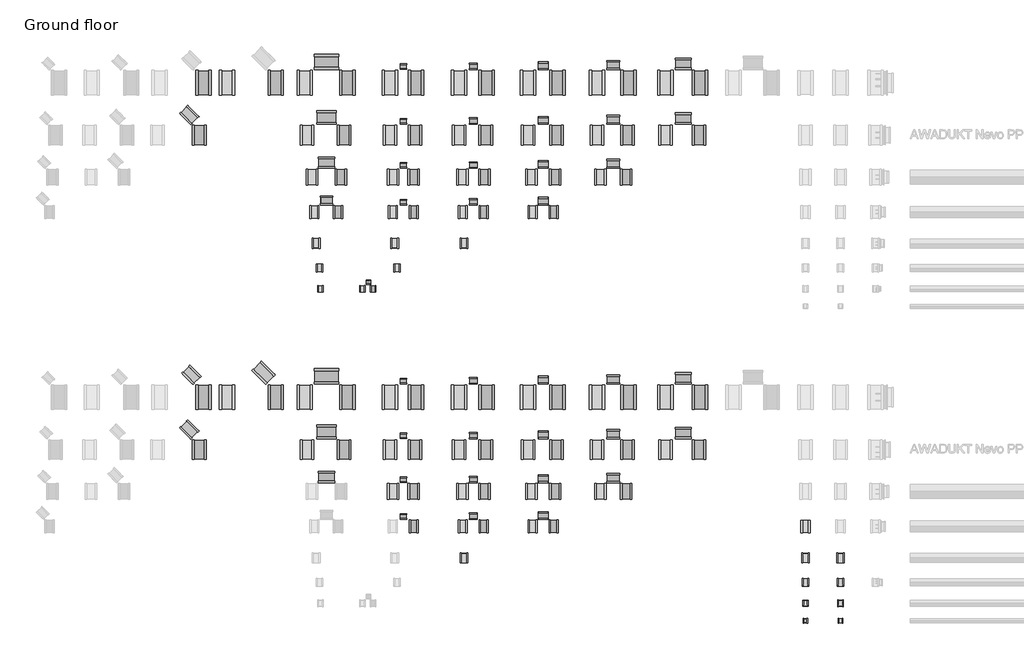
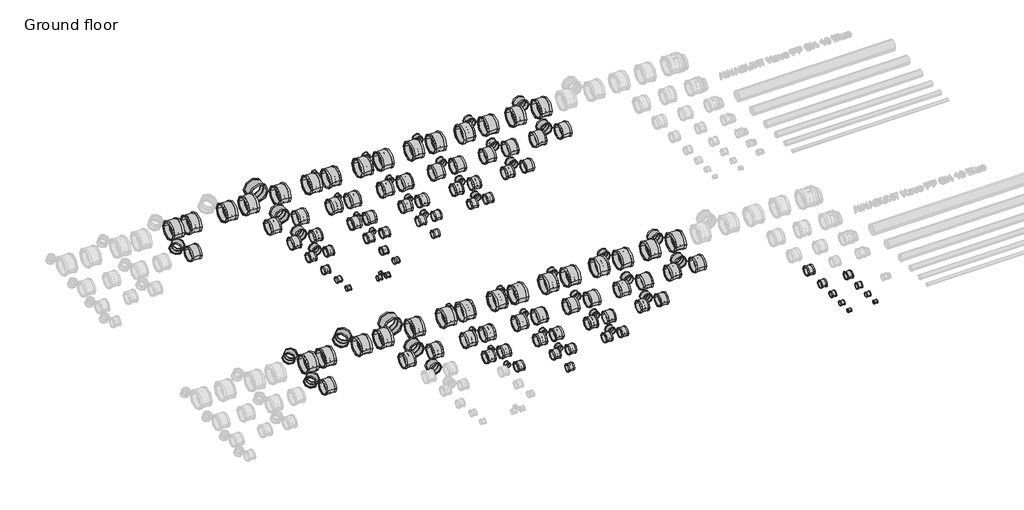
# One storey, part 4 of 10: 151 pipe fittings.
"""IFC4 building model written with IfcOpenShell, lengths in millimetres."""

from ifc_helpers import new_model, si_unit, origin, place, context, project, spatial, transform, mapped, element, save
from components import pipe_fitting_e5a81f0f, pipe_fitting_366f8f33, pipe_fitting_3dc9645f, pipe_fitting_b5a722ff, pipe_fitting_a818c1c7, pipe_fitting_9bc79c39, pipe_fitting_2c23b5e5, pipe_fitting_0ebad727, blue_01f449b1, blue_9a590d53, blue_d79e372c, blue_eca1b971, blue_b5fe305e

model = new_model("IFC4")

# Units and contexts
model_context = context("Model", 3, world=origin())
ifc_project = project(units=[si_unit("LENGTHUNIT", "METRE", prefix="MILLI")], contexts=[model_context])

# Site, building, storey
site = spatial("IfcSite", under=ifc_project)
building = spatial("IfcBuilding", under=site)
storey = spatial("IfcBuildingStorey", under=building, Name="Ground floor", Elevation=0.0)

# Pipe fittings
placement = place(None, origin())
pipe_fitting_shape = pipe_fitting_e5a81f0f(model_context)
element("IfcPipeFitting", 1, ObjectType="AWADUKT PP Union DSM : Orange No PID", at=placement, inside=storey, context=model_context, shape_type="MappedRepresentation", body=[
    mapped(pipe_fitting_shape, transform((36151.0, 11700.0, 0.0), x_axis=(1.0, 0.0, 0.0), y_axis=(0.0, 1.0, 0.0), z_axis=(0.0, 0.0, 1.0))),
])
element("IfcPipeFitting", 2, ObjectType="AWADUKT PP Union DSM : Orange No PID", at=placement, inside=storey, context=model_context, shape_type="MappedRepresentation", body=[
    mapped(pipe_fitting_shape, transform((38394.0, 11700.0, 0.0), x_axis=(1.0, 0.0, 0.0), y_axis=(0.0, 1.0, 0.0), z_axis=(0.0, 0.0, 1.0))),
])
element("IfcPipeFitting", 3, ObjectType="AWADUKT PP Union DSM : Orange No PID", at=placement, inside=storey, context=model_context, shape_type="MappedRepresentation", body=[
    mapped(pipe_fitting_shape, transform((40394.0, 11700.0, 0.0), x_axis=(1.0, 0.0, 0.0), y_axis=(0.0, 1.0, 0.0), z_axis=(0.0, 0.0, 1.0))),
])
element("IfcPipeFitting", 4, ObjectType="AWADUKT PP Union DSM : Orange No PID", at=placement, inside=storey, context=model_context, shape_type="MappedRepresentation", body=[
    mapped(pipe_fitting_shape, transform((42394.0, 11700.0, 0.0), x_axis=(1.0, 0.0, 0.0), y_axis=(0.0, 1.0, 0.0), z_axis=(0.0, 0.0, 1.0))),
])
element("IfcPipeFitting", 5, ObjectType="AWADUKT PP Union DSM : Orange No PID", at=placement, inside=storey, context=model_context, shape_type="MappedRepresentation", body=[
    mapped(pipe_fitting_shape, transform((36832.0, 11700.0, 0.0), x_axis=(-1.0, 0.0, 0.0), y_axis=(0.0, -1.0, 0.0), z_axis=(0.0, 0.0, 1.0))),
])
element("IfcPipeFitting", 6, ObjectType="AWADUKT PP Union DSM : Orange No PID", at=placement, inside=storey, context=model_context, shape_type="MappedRepresentation", body=[
    mapped(pipe_fitting_shape, transform((36500.0, 12025.0, 0.0), x_axis=(0.0, 1.0, 0.0), y_axis=(-1.0, 0.0, 0.0), z_axis=(0.0, 0.0, 1.0))),
])
element("IfcPipeFitting", 7, ObjectType="AWADUKT PP Union DSM : Orange No PID", at=placement, inside=storey, context=model_context, shape_type="MappedRepresentation", body=[
    mapped(pipe_fitting_shape, transform((39000.0, 11700.0, 0.0), x_axis=(-1.0, 0.0, 0.0), y_axis=(0.0, -1.0, 0.0), z_axis=(0.0, 0.0, 1.0))),
])
element("IfcPipeFitting", 8, ObjectType="AWADUKT PP Union DSM : Orange No PID", at=placement, inside=storey, context=model_context, shape_type="MappedRepresentation", body=[
    mapped(pipe_fitting_shape, transform((41000.0, 11700.0, 0.0), x_axis=(-1.0, 0.0, 0.0), y_axis=(0.0, -1.0, 0.0), z_axis=(0.0, 0.0, 1.0))),
])
element("IfcPipeFitting", 9, ObjectType="AWADUKT PP Union DSM : Orange No PID", at=placement, inside=storey, context=model_context, shape_type="MappedRepresentation", body=[
    mapped(pipe_fitting_shape, transform((43000.0, 11700.0, 0.0), x_axis=(-1.0, 0.0, 0.0), y_axis=(0.0, -1.0, 0.0), z_axis=(0.0, 0.0, 1.0))),
])
element("IfcPipeFitting", 10, ObjectType="AWADUKT PP Union DSM : Orange No PID", at=placement, inside=storey, context=model_context, shape_type="MappedRepresentation", body=[
    mapped(pipe_fitting_shape, transform((44700.0, 13078.0, 0.0), x_axis=(0.0, 1.0, 0.0), y_axis=(-1.0, 0.0, 0.0), z_axis=(0.0, 0.0, 1.0))),
])
element("IfcPipeFitting", 11, ObjectType="AWADUKT PP Union DSM : Orange No PID", at=placement, inside=storey, context=model_context, shape_type="MappedRepresentation", body=[
    mapped(pipe_fitting_shape, transform((44700.0, 14338.0, 0.0), x_axis=(0.0, 1.0, 0.0), y_axis=(-1.0, 0.0, 0.0), z_axis=(0.0, 0.0, 1.0))),
])
element("IfcPipeFitting", 12, ObjectType="AWADUKT PP Union DSM : Orange No PID", at=placement, inside=storey, context=model_context, shape_type="MappedRepresentation", body=[
    mapped(pipe_fitting_shape, transform((44700.0, 15903.0, 0.0), x_axis=(0.0, 1.0, 0.0), y_axis=(-1.0, 0.0, 0.0), z_axis=(0.0, 0.0, 1.0))),
])
pipe_fitting_2_shape = pipe_fitting_366f8f33(model_context)
element("IfcPipeFitting", 13, ObjectType="AWADUKT PP Union DSM : Blue No PID", at=placement, inside=storey, context=model_context, shape_type="MappedRepresentation", body=[
    mapped(pipe_fitting_2_shape, transform((32987.0, 6400.0, 0.0), x_axis=(-1.0, 0.0, 0.0), y_axis=(0.0, -1.0, 0.0), z_axis=(0.0, 0.0, 1.0))),
])
element("IfcPipeFitting", 14, ObjectType="AWADUKT PP Union DSM : Blue No PID", at=placement, inside=storey, context=model_context, shape_type="MappedRepresentation", body=[
    mapped(pipe_fitting_2_shape, transform((33650.0, 6400.0, 0.0), x_axis=(1.0, 0.0, 0.0), y_axis=(0.0, 1.0, 0.0), z_axis=(0.0, 0.0, 1.0))),
])
element("IfcPipeFitting", 15, ObjectType="AWADUKT PP Union DSM : Blue No PID", at=placement, inside=storey, context=model_context, shape_type="MappedRepresentation", body=[
    mapped(pipe_fitting_2_shape, transform((35054.0, 6400.0, 0.0), x_axis=(-1.0, 0.0, 0.0), y_axis=(0.0, -1.0, 0.0), z_axis=(0.0, 0.0, 1.0))),
])
element("IfcPipeFitting", 16, ObjectType="AWADUKT PP Union DSM : Blue No PID", at=placement, inside=storey, context=model_context, shape_type="MappedRepresentation", body=[
    mapped(pipe_fitting_2_shape, transform((35874.0, 6400.0, 0.0), x_axis=(1.0, 0.0, 0.0), y_axis=(0.0, 1.0, 0.0), z_axis=(0.0, 0.0, 1.0))),
])
element("IfcPipeFitting", 17, ObjectType="AWADUKT PP Union DSM : Blue No PID", at=placement, inside=storey, context=model_context, shape_type="MappedRepresentation", body=[
    mapped(pipe_fitting_2_shape, transform((38309.0, 6400.0, 0.0), x_axis=(1.0, 0.0, 0.0), y_axis=(0.0, 1.0, 0.0), z_axis=(0.0, 0.0, 1.0))),
])
element("IfcPipeFitting", 18, ObjectType="AWADUKT PP Union DSM : Blue No PID", at=placement, inside=storey, context=model_context, shape_type="MappedRepresentation", body=[
    mapped(pipe_fitting_2_shape, transform((40289.0, 6400.0, 0.0), x_axis=(1.0, 0.0, 0.0), y_axis=(0.0, 1.0, 0.0), z_axis=(0.0, 0.0, 1.0))),
])
element("IfcPipeFitting", 19, ObjectType="AWADUKT PP Union DSM : Blue No PID", at=placement, inside=storey, context=model_context, shape_type="MappedRepresentation", body=[
    mapped(pipe_fitting_2_shape, transform((42264.0, 6400.0, 0.0), x_axis=(1.0, 0.0, 0.0), y_axis=(0.0, 1.0, 0.0), z_axis=(0.0, 0.0, 1.0))),
])
element("IfcPipeFitting", 20, ObjectType="AWADUKT PP Union DSM : Blue No PID", at=placement, inside=storey, context=model_context, shape_type="MappedRepresentation", body=[
    mapped(pipe_fitting_2_shape, transform((44232.0, 6400.0, 0.0), x_axis=(1.0, 0.0, 0.0), y_axis=(0.0, 1.0, 0.0), z_axis=(0.0, 0.0, 1.0))),
])
element("IfcPipeFitting", 21, ObjectType="AWADUKT PP Union DSM : Blue No PID", at=placement, inside=storey, context=model_context, shape_type="MappedRepresentation", body=[
    mapped(pipe_fitting_2_shape, transform((46189.0, 6400.0, 0.0), x_axis=(1.0, 0.0, 0.0), y_axis=(0.0, 1.0, 0.0), z_axis=(0.0, 0.0, 1.0))),
])
element("IfcPipeFitting", 22, ObjectType="AWADUKT PP Union DSM : Blue No PID", at=placement, inside=storey, context=model_context, shape_type="MappedRepresentation", body=[
    mapped(pipe_fitting_2_shape, transform((37101.0, 6400.0, 0.0), x_axis=(-1.0, 0.0, 0.0), y_axis=(0.0, -1.0, 0.0), z_axis=(0.0, 0.0, 1.0))),
])
element("IfcPipeFitting", 23, ObjectType="AWADUKT PP Union DSM : Blue No PID", at=placement, inside=storey, context=model_context, shape_type="MappedRepresentation", body=[
    mapped(pipe_fitting_2_shape, transform((36500.0, 6990.0, 0.0), x_axis=(0.0, 1.0, 0.0), y_axis=(-1.0, 0.0, 0.0), z_axis=(0.0, 0.0, 1.0))),
])
element("IfcPipeFitting", 24, ObjectType="AWADUKT PP Union DSM : Blue No PID", at=placement, inside=storey, context=model_context, shape_type="MappedRepresentation", body=[
    mapped(pipe_fitting_2_shape, transform((39066.0, 6400.0, 0.0), x_axis=(-1.0, 0.0, 0.0), y_axis=(0.0, -1.0, 0.0), z_axis=(0.0, 0.0, 1.0))),
])
element("IfcPipeFitting", 25, ObjectType="AWADUKT PP Union DSM : Blue No PID", at=placement, inside=storey, context=model_context, shape_type="MappedRepresentation", body=[
    mapped(pipe_fitting_2_shape, transform((41086.0, 6400.0, 0.0), x_axis=(-1.0, 0.0, 0.0), y_axis=(0.0, -1.0, 0.0), z_axis=(0.0, 0.0, 1.0))),
])
element("IfcPipeFitting", 26, ObjectType="AWADUKT PP Union DSM : Blue No PID", at=placement, inside=storey, context=model_context, shape_type="MappedRepresentation", body=[
    mapped(pipe_fitting_2_shape, transform((43111.0, 6400.0, 0.0), x_axis=(-1.0, 0.0, 0.0), y_axis=(0.0, -1.0, 0.0), z_axis=(0.0, 0.0, 1.0))),
])
element("IfcPipeFitting", 27, ObjectType="AWADUKT PP Union DSM : Blue No PID", at=placement, inside=storey, context=model_context, shape_type="MappedRepresentation", body=[
    mapped(pipe_fitting_2_shape, transform((45144.0, 6400.0, 0.0), x_axis=(-1.0, 0.0, 0.0), y_axis=(0.0, -1.0, 0.0), z_axis=(0.0, 0.0, 1.0))),
])
element("IfcPipeFitting", 28, ObjectType="AWADUKT PP Union DSM : Blue No PID", at=placement, inside=storey, context=model_context, shape_type="MappedRepresentation", body=[
    mapped(pipe_fitting_2_shape, transform((47186.0, 6400.0, 0.0), x_axis=(-1.0, 0.0, 0.0), y_axis=(0.0, -1.0, 0.0), z_axis=(0.0, 0.0, 1.0))),
])
pipe_fitting_3_shape = pipe_fitting_3dc9645f(model_context)
element("IfcPipeFitting", 29, ObjectType="AWADUKT PP Union DSM : Blue No PID", at=placement, inside=storey, context=model_context, shape_type="MappedRepresentation", body=[
    mapped(pipe_fitting_3_shape, transform((38700.0, 2982.0, 0.0), x_axis=(0.0, 1.0, 0.0), y_axis=(-1.0, 0.0, 0.0), z_axis=(0.0, 0.0, 1.0))),
])
element("IfcPipeFitting", 30, ObjectType="AWADUKT PP Union DSM : Blue No PID", at=placement, inside=storey, context=model_context, shape_type="MappedRepresentation", body=[
    mapped(pipe_fitting_3_shape, transform((38700.0, 4035.0, 0.0), x_axis=(0.0, 1.0, 0.0), y_axis=(-1.0, 0.0, 0.0), z_axis=(0.0, 0.0, 1.0))),
])
element("IfcPipeFitting", 31, ObjectType="AWADUKT PP Union DSM : Blue No PID", at=placement, inside=storey, context=model_context, shape_type="MappedRepresentation", body=[
    mapped(pipe_fitting_3_shape, transform((38700.0, 5295.0, 0.0), x_axis=(0.0, 1.0, 0.0), y_axis=(-1.0, 0.0, 0.0), z_axis=(0.0, 0.0, 1.0))),
])
element("IfcPipeFitting", 32, ObjectType="AWADUKT PP Union DSM : Blue No PID", at=placement, inside=storey, context=model_context, shape_type="MappedRepresentation", body=[
    mapped(pipe_fitting_3_shape, transform((38700.0, 6860.0, 0.0), x_axis=(0.0, 1.0, 0.0), y_axis=(-1.0, 0.0, 0.0), z_axis=(0.0, 0.0, 1.0))),
])
pipe_fitting_4_shape = pipe_fitting_b5a722ff(model_context)
element("IfcPipeFitting", 33, ObjectType="AWADUKT PP Union DSM : Blue No PID", at=placement, inside=storey, context=model_context, shape_type="MappedRepresentation", body=[
    mapped(pipe_fitting_4_shape, transform((40700.0, 2988.0, 0.0), x_axis=(0.0, 1.0, 0.0), y_axis=(-1.0, 0.0, 0.0), z_axis=(0.0, 0.0, 1.0))),
])
element("IfcPipeFitting", 34, ObjectType="AWADUKT PP Union DSM : Blue No PID", at=placement, inside=storey, context=model_context, shape_type="MappedRepresentation", body=[
    mapped(pipe_fitting_4_shape, transform((40700.0, 4040.0, 0.0), x_axis=(0.0, 1.0, 0.0), y_axis=(-1.0, 0.0, 0.0), z_axis=(0.0, 0.0, 1.0))),
])
element("IfcPipeFitting", 35, ObjectType="AWADUKT PP Union DSM : Blue No PID", at=placement, inside=storey, context=model_context, shape_type="MappedRepresentation", body=[
    mapped(pipe_fitting_4_shape, transform((40700.0, 5300.0, 0.0), x_axis=(0.0, 1.0, 0.0), y_axis=(-1.0, 0.0, 0.0), z_axis=(0.0, 0.0, 1.0))),
])
element("IfcPipeFitting", 36, ObjectType="AWADUKT PP Union DSM : Blue No PID", at=placement, inside=storey, context=model_context, shape_type="MappedRepresentation", body=[
    mapped(pipe_fitting_4_shape, transform((40700.0, 6865.0, 0.0), x_axis=(0.0, 1.0, 0.0), y_axis=(-1.0, 0.0, 0.0), z_axis=(0.0, 0.0, 1.0))),
])
pipe_fitting_5_shape = pipe_fitting_a818c1c7(model_context)
element("IfcPipeFitting", 37, ObjectType="AWADUKT PP Union DSM : Blue No PID", at=placement, inside=storey, context=model_context, shape_type="MappedRepresentation", body=[
    mapped(pipe_fitting_5_shape, transform((40429.0, 1800.0, 0.0), x_axis=(1.0, 0.0, 0.0), y_axis=(0.0, 1.0, 0.0), z_axis=(0.0, 0.0, 1.0))),
])
element("IfcPipeFitting", 38, ObjectType="AWADUKT PP Union DSM : Blue No PID", at=placement, inside=storey, context=model_context, shape_type="MappedRepresentation", body=[
    mapped(pipe_fitting_5_shape, transform((42700.0, 3007.0, 0.0), x_axis=(0.0, 1.0, 0.0), y_axis=(-1.0, 0.0, 0.0), z_axis=(0.0, 0.0, 1.0))),
])
element("IfcPipeFitting", 39, ObjectType="AWADUKT PP Union DSM : Blue No PID", at=placement, inside=storey, context=model_context, shape_type="MappedRepresentation", body=[
    mapped(pipe_fitting_5_shape, transform((42700.0, 4060.0, 0.0), x_axis=(0.0, 1.0, 0.0), y_axis=(-1.0, 0.0, 0.0), z_axis=(0.0, 0.0, 1.0))),
])
element("IfcPipeFitting", 40, ObjectType="AWADUKT PP Union DSM : Blue No PID", at=placement, inside=storey, context=model_context, shape_type="MappedRepresentation", body=[
    mapped(pipe_fitting_5_shape, transform((42700.0, 5320.0, 0.0), x_axis=(0.0, 1.0, 0.0), y_axis=(-1.0, 0.0, 0.0), z_axis=(0.0, 0.0, 1.0))),
])
element("IfcPipeFitting", 41, ObjectType="AWADUKT PP Union DSM : Blue No PID", at=placement, inside=storey, context=model_context, shape_type="MappedRepresentation", body=[
    mapped(pipe_fitting_5_shape, transform((42700.0, 6885.0, 0.0), x_axis=(0.0, 1.0, 0.0), y_axis=(-1.0, 0.0, 0.0), z_axis=(0.0, 0.0, 1.0))),
])
element("IfcPipeFitting", 42, ObjectType="AWADUKT PP Union DSM : Blue No PID", at=placement, inside=storey, context=model_context, shape_type="MappedRepresentation", body=[
    mapped(pipe_fitting_shape, transform((40394.0, 2700.0, 0.0), x_axis=(1.0, 0.0, 0.0), y_axis=(0.0, 1.0, 0.0), z_axis=(0.0, 0.0, 1.0))),
])
element("IfcPipeFitting", 43, ObjectType="AWADUKT PP Union DSM : Blue No PID", at=placement, inside=storey, context=model_context, shape_type="MappedRepresentation", body=[
    mapped(pipe_fitting_shape, transform((42394.0, 2700.0, 0.0), x_axis=(1.0, 0.0, 0.0), y_axis=(0.0, 1.0, 0.0), z_axis=(0.0, 0.0, 1.0))),
])
element("IfcPipeFitting", 44, ObjectType="AWADUKT PP Union DSM : Blue No PID", at=placement, inside=storey, context=model_context, shape_type="MappedRepresentation", body=[
    mapped(pipe_fitting_shape, transform((39000.0, 2700.0, 0.0), x_axis=(-1.0, 0.0, 0.0), y_axis=(0.0, -1.0, 0.0), z_axis=(0.0, 0.0, 1.0))),
])
element("IfcPipeFitting", 45, ObjectType="AWADUKT PP Union DSM : Blue No PID", at=placement, inside=storey, context=model_context, shape_type="MappedRepresentation", body=[
    mapped(pipe_fitting_shape, transform((41000.0, 2700.0, 0.0), x_axis=(-1.0, 0.0, 0.0), y_axis=(0.0, -1.0, 0.0), z_axis=(0.0, 0.0, 1.0))),
])
element("IfcPipeFitting", 46, ObjectType="AWADUKT PP Union DSM : Blue No PID", at=placement, inside=storey, context=model_context, shape_type="MappedRepresentation", body=[
    mapped(pipe_fitting_shape, transform((43000.0, 2700.0, 0.0), x_axis=(-1.0, 0.0, 0.0), y_axis=(0.0, -1.0, 0.0), z_axis=(0.0, 0.0, 1.0))),
])
element("IfcPipeFitting", 47, ObjectType="AWADUKT PP Union DSM : Blue No PID", at=placement, inside=storey, context=model_context, shape_type="MappedRepresentation", body=[
    mapped(pipe_fitting_shape, transform((44700.0, 4078.0, 0.0), x_axis=(0.0, 1.0, 0.0), y_axis=(-1.0, 0.0, 0.0), z_axis=(0.0, 0.0, 1.0))),
])
element("IfcPipeFitting", 48, ObjectType="AWADUKT PP Union DSM : Blue No PID", at=placement, inside=storey, context=model_context, shape_type="MappedRepresentation", body=[
    mapped(pipe_fitting_shape, transform((44700.0, 5338.0, 0.0), x_axis=(0.0, 1.0, 0.0), y_axis=(-1.0, 0.0, 0.0), z_axis=(0.0, 0.0, 1.0))),
])
element("IfcPipeFitting", 49, ObjectType="AWADUKT PP Union DSM : Blue No PID", at=placement, inside=storey, context=model_context, shape_type="MappedRepresentation", body=[
    mapped(pipe_fitting_shape, transform((44700.0, 6903.0, 0.0), x_axis=(0.0, 1.0, 0.0), y_axis=(-1.0, 0.0, 0.0), z_axis=(0.0, 0.0, 1.0))),
])
pipe_fitting_6_shape = pipe_fitting_9bc79c39(model_context)
element("IfcPipeFitting", 50, ObjectType="AWADUKT PP Union DSM : Blue No PID", at=placement, inside=storey, context=model_context, shape_type="MappedRepresentation", body=[
    mapped(pipe_fitting_6_shape, transform((32572.7564928, 5472.7564928, 0.0), x_axis=(0.7071067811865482, 0.7071067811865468, 0.0), y_axis=(-0.7071067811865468, 0.7071067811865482, 0.0), z_axis=(0.0, 0.0, 1.0))),
])
element("IfcPipeFitting", 51, ObjectType="AWADUKT PP Union DSM : Blue No PID", at=placement, inside=storey, context=model_context, shape_type="MappedRepresentation", body=[
    mapped(pipe_fitting_6_shape, transform((32636.3961031, 7036.3961031, 0.0), x_axis=(0.7071067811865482, 0.7071067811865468, 0.0), y_axis=(-0.7071067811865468, 0.7071067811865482, 0.0), z_axis=(0.0, 0.0, 1.0))),
])
element("IfcPipeFitting", 52, ObjectType="AWADUKT PP Union DSM : Blue No PID", at=placement, inside=storey, context=model_context, shape_type="MappedRepresentation", body=[
    mapped(pipe_fitting_6_shape, transform((38401.0, 3700.0, 0.0), x_axis=(1.0, 0.0, 0.0), y_axis=(0.0, 1.0, 0.0), z_axis=(0.0, 0.0, 1.0))),
])
element("IfcPipeFitting", 53, ObjectType="AWADUKT PP Union DSM : Blue No PID", at=placement, inside=storey, context=model_context, shape_type="MappedRepresentation", body=[
    mapped(pipe_fitting_6_shape, transform((40381.0, 3700.0, 0.0), x_axis=(1.0, 0.0, 0.0), y_axis=(0.0, 1.0, 0.0), z_axis=(0.0, 0.0, 1.0))),
])
element("IfcPipeFitting", 54, ObjectType="AWADUKT PP Union DSM : Blue No PID", at=placement, inside=storey, context=model_context, shape_type="MappedRepresentation", body=[
    mapped(pipe_fitting_6_shape, transform((42356.0, 3700.0, 0.0), x_axis=(1.0, 0.0, 0.0), y_axis=(0.0, 1.0, 0.0), z_axis=(0.0, 0.0, 1.0))),
])
element("IfcPipeFitting", 55, ObjectType="AWADUKT PP Union DSM : Blue No PID", at=placement, inside=storey, context=model_context, shape_type="MappedRepresentation", body=[
    mapped(pipe_fitting_6_shape, transform((44330.0, 3700.0, 0.0), x_axis=(1.0, 0.0, 0.0), y_axis=(0.0, 1.0, 0.0), z_axis=(0.0, 0.0, 1.0))),
])
element("IfcPipeFitting", 56, ObjectType="AWADUKT PP Union DSM : Blue No PID", at=placement, inside=storey, context=model_context, shape_type="MappedRepresentation", body=[
    mapped(pipe_fitting_6_shape, transform((36500.0, 4110.0, 0.0), x_axis=(0.0, 1.0, 0.0), y_axis=(-1.0, 0.0, 0.0), z_axis=(0.0, 0.0, 1.0))),
])
element("IfcPipeFitting", 57, ObjectType="AWADUKT PP Union DSM : Blue No PID", at=placement, inside=storey, context=model_context, shape_type="MappedRepresentation", body=[
    mapped(pipe_fitting_6_shape, transform((38999.0, 3700.0, 0.0), x_axis=(-1.0, 0.0, 0.0), y_axis=(0.0, -1.0, 0.0), z_axis=(0.0, 0.0, 1.0))),
])
element("IfcPipeFitting", 58, ObjectType="AWADUKT PP Union DSM : Blue No PID", at=placement, inside=storey, context=model_context, shape_type="MappedRepresentation", body=[
    mapped(pipe_fitting_6_shape, transform((41019.0, 3700.0, 0.0), x_axis=(-1.0, 0.0, 0.0), y_axis=(0.0, -1.0, 0.0), z_axis=(0.0, 0.0, 1.0))),
])
element("IfcPipeFitting", 59, ObjectType="AWADUKT PP Union DSM : Blue No PID", at=placement, inside=storey, context=model_context, shape_type="MappedRepresentation", body=[
    mapped(pipe_fitting_6_shape, transform((43044.0, 3700.0, 0.0), x_axis=(-1.0, 0.0, 0.0), y_axis=(0.0, -1.0, 0.0), z_axis=(0.0, 0.0, 1.0))),
])
element("IfcPipeFitting", 60, ObjectType="AWADUKT PP Union DSM : Blue No PID", at=placement, inside=storey, context=model_context, shape_type="MappedRepresentation", body=[
    mapped(pipe_fitting_6_shape, transform((45076.0, 3700.0, 0.0), x_axis=(-1.0, 0.0, 0.0), y_axis=(0.0, -1.0, 0.0), z_axis=(0.0, 0.0, 1.0))),
])
element("IfcPipeFitting", 61, ObjectType="AWADUKT PP Union DSM : Blue No PID", at=placement, inside=storey, context=model_context, shape_type="MappedRepresentation", body=[
    mapped(pipe_fitting_6_shape, transform((46700.0, 5370.0, 0.0), x_axis=(0.0, 1.0, 0.0), y_axis=(-1.0, 0.0, 0.0), z_axis=(0.0, 0.0, 1.0))),
])
element("IfcPipeFitting", 62, ObjectType="AWADUKT PP Union DSM : Blue No PID", at=placement, inside=storey, context=model_context, shape_type="MappedRepresentation", body=[
    mapped(pipe_fitting_6_shape, transform((46700.0, 6935.0, 0.0), x_axis=(0.0, 1.0, 0.0), y_axis=(-1.0, 0.0, 0.0), z_axis=(0.0, 0.0, 1.0))),
])
pipe_fitting_7_shape = pipe_fitting_2c23b5e5(model_context)
element("IfcPipeFitting", 63, ObjectType="AWADUKT PP Union DSM : Blue No PID", at=placement, inside=storey, context=model_context, shape_type="MappedRepresentation", body=[
    mapped(pipe_fitting_7_shape, transform((32866.0, 4900.0, 0.0), x_axis=(-1.0, 0.0, 0.0), y_axis=(0.0, -1.0, 0.0), z_axis=(0.0, 0.0, 1.0))),
])
element("IfcPipeFitting", 64, ObjectType="AWADUKT PP Union DSM : Blue No PID", at=placement, inside=storey, context=model_context, shape_type="MappedRepresentation", body=[
    mapped(pipe_fitting_7_shape, transform((34696.5001795, 7096.5001795, 0.0), x_axis=(0.7071067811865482, 0.7071067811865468, 0.0), y_axis=(-0.7071067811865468, 0.7071067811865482, 0.0), z_axis=(0.0, 0.0, 1.0))),
])
element("IfcPipeFitting", 65, ObjectType="AWADUKT PP Union DSM : Blue No PID", at=placement, inside=storey, context=model_context, shape_type="MappedRepresentation", body=[
    mapped(pipe_fitting_7_shape, transform((35939.0, 4900.0, 0.0), x_axis=(1.0, 0.0, 0.0), y_axis=(0.0, 1.0, 0.0), z_axis=(0.0, 0.0, 1.0))),
])
element("IfcPipeFitting", 66, ObjectType="AWADUKT PP Union DSM : Blue No PID", at=placement, inside=storey, context=model_context, shape_type="MappedRepresentation", body=[
    mapped(pipe_fitting_7_shape, transform((38309.0, 4900.0, 0.0), x_axis=(1.0, 0.0, 0.0), y_axis=(0.0, 1.0, 0.0), z_axis=(0.0, 0.0, 1.0))),
])
element("IfcPipeFitting", 67, ObjectType="AWADUKT PP Union DSM : Blue No PID", at=placement, inside=storey, context=model_context, shape_type="MappedRepresentation", body=[
    mapped(pipe_fitting_7_shape, transform((40289.0, 4900.0, 0.0), x_axis=(1.0, 0.0, 0.0), y_axis=(0.0, 1.0, 0.0), z_axis=(0.0, 0.0, 1.0))),
])
element("IfcPipeFitting", 68, ObjectType="AWADUKT PP Union DSM : Blue No PID", at=placement, inside=storey, context=model_context, shape_type="MappedRepresentation", body=[
    mapped(pipe_fitting_7_shape, transform((42264.0, 4900.0, 0.0), x_axis=(1.0, 0.0, 0.0), y_axis=(0.0, 1.0, 0.0), z_axis=(0.0, 0.0, 1.0))),
])
element("IfcPipeFitting", 69, ObjectType="AWADUKT PP Union DSM : Blue No PID", at=placement, inside=storey, context=model_context, shape_type="MappedRepresentation", body=[
    mapped(pipe_fitting_7_shape, transform((44232.0, 4900.0, 0.0), x_axis=(1.0, 0.0, 0.0), y_axis=(0.0, 1.0, 0.0), z_axis=(0.0, 0.0, 1.0))),
])
element("IfcPipeFitting", 70, ObjectType="AWADUKT PP Union DSM : Blue No PID", at=placement, inside=storey, context=model_context, shape_type="MappedRepresentation", body=[
    mapped(pipe_fitting_7_shape, transform((46189.0, 4900.0, 0.0), x_axis=(1.0, 0.0, 0.0), y_axis=(0.0, 1.0, 0.0), z_axis=(0.0, 0.0, 1.0))),
])
element("IfcPipeFitting", 71, ObjectType="AWADUKT PP Union DSM : Blue No PID", at=placement, inside=storey, context=model_context, shape_type="MappedRepresentation", body=[
    mapped(pipe_fitting_7_shape, transform((37010.0, 4900.0, 0.0), x_axis=(-1.0, 0.0, 0.0), y_axis=(0.0, -1.0, 0.0), z_axis=(0.0, 0.0, 1.0))),
])
element("IfcPipeFitting", 72, ObjectType="AWADUKT PP Union DSM : Blue No PID", at=placement, inside=storey, context=model_context, shape_type="MappedRepresentation", body=[
    mapped(pipe_fitting_7_shape, transform((36500.0, 5399.0, 0.0), x_axis=(0.0, 1.0, 0.0), y_axis=(-1.0, 0.0, 0.0), z_axis=(0.0, 0.0, 1.0))),
])
element("IfcPipeFitting", 73, ObjectType="AWADUKT PP Union DSM : Blue No PID", at=placement, inside=storey, context=model_context, shape_type="MappedRepresentation", body=[
    mapped(pipe_fitting_7_shape, transform((39040.0, 4900.0, 0.0), x_axis=(-1.0, 0.0, 0.0), y_axis=(0.0, -1.0, 0.0), z_axis=(0.0, 0.0, 1.0))),
])
element("IfcPipeFitting", 74, ObjectType="AWADUKT PP Union DSM : Blue No PID", at=placement, inside=storey, context=model_context, shape_type="MappedRepresentation", body=[
    mapped(pipe_fitting_7_shape, transform((41060.0, 4900.0, 0.0), x_axis=(-1.0, 0.0, 0.0), y_axis=(0.0, -1.0, 0.0), z_axis=(0.0, 0.0, 1.0))),
])
element("IfcPipeFitting", 75, ObjectType="AWADUKT PP Union DSM : Blue No PID", at=placement, inside=storey, context=model_context, shape_type="MappedRepresentation", body=[
    mapped(pipe_fitting_7_shape, transform((43085.0, 4900.0, 0.0), x_axis=(-1.0, 0.0, 0.0), y_axis=(0.0, -1.0, 0.0), z_axis=(0.0, 0.0, 1.0))),
])
element("IfcPipeFitting", 76, ObjectType="AWADUKT PP Union DSM : Blue No PID", at=placement, inside=storey, context=model_context, shape_type="MappedRepresentation", body=[
    mapped(pipe_fitting_7_shape, transform((45118.0, 4900.0, 0.0), x_axis=(-1.0, 0.0, 0.0), y_axis=(0.0, -1.0, 0.0), z_axis=(0.0, 0.0, 1.0))),
])
element("IfcPipeFitting", 77, ObjectType="AWADUKT PP Union DSM : Blue No PID", at=placement, inside=storey, context=model_context, shape_type="MappedRepresentation", body=[
    mapped(pipe_fitting_7_shape, transform((47160.0, 4900.0, 0.0), x_axis=(-1.0, 0.0, 0.0), y_axis=(0.0, -1.0, 0.0), z_axis=(0.0, 0.0, 1.0))),
])
pipe_fitting_8_shape = pipe_fitting_0ebad727(model_context)
element("IfcPipeFitting", 78, ObjectType="AWADUKT PP Union DSM : Orange No PID", at=placement, inside=storey, context=model_context, shape_type="MappedRepresentation", body=[
    mapped(pipe_fitting_8_shape, transform((37700.0, 9690.0, 0.0), x_axis=(0.0, 1.0, 0.0), y_axis=(-1.0, 0.0, 0.0), z_axis=(0.0, 0.0, 1.0))),
])
element("IfcPipeFitting", 79, ObjectType="AWADUKT PP Union DSM : Orange No PID", at=placement, inside=storey, context=model_context, shape_type="MappedRepresentation", body=[
    mapped(pipe_fitting_3_shape, transform((36326.0, 9500.0, 0.0), x_axis=(1.0, 0.0, 0.0), y_axis=(0.0, 1.0, 0.0), z_axis=(0.0, 0.0, 1.0))),
])
element("IfcPipeFitting", 80, ObjectType="AWADUKT PP Union DSM : Orange No PID", at=placement, inside=storey, context=model_context, shape_type="MappedRepresentation", body=[
    mapped(pipe_fitting_3_shape, transform((37524.0, 9500.0, 0.0), x_axis=(1.0, 0.0, 0.0), y_axis=(0.0, 1.0, 0.0), z_axis=(0.0, 0.0, 1.0))),
])
element("IfcPipeFitting", 81, ObjectType="AWADUKT PP Union DSM : Orange No PID", at=placement, inside=storey, context=model_context, shape_type="MappedRepresentation", body=[
    mapped(pipe_fitting_3_shape, transform((38700.0, 11982.0, 0.0), x_axis=(0.0, 1.0, 0.0), y_axis=(-1.0, 0.0, 0.0), z_axis=(0.0, 0.0, 1.0))),
])
element("IfcPipeFitting", 82, ObjectType="AWADUKT PP Union DSM : Orange No PID", at=placement, inside=storey, context=model_context, shape_type="MappedRepresentation", body=[
    mapped(pipe_fitting_3_shape, transform((38700.0, 13035.0, 0.0), x_axis=(0.0, 1.0, 0.0), y_axis=(-1.0, 0.0, 0.0), z_axis=(0.0, 0.0, 1.0))),
])
element("IfcPipeFitting", 83, ObjectType="AWADUKT PP Union DSM : Orange No PID", at=placement, inside=storey, context=model_context, shape_type="MappedRepresentation", body=[
    mapped(pipe_fitting_3_shape, transform((38700.0, 14295.0, 0.0), x_axis=(0.0, 1.0, 0.0), y_axis=(-1.0, 0.0, 0.0), z_axis=(0.0, 0.0, 1.0))),
])
element("IfcPipeFitting", 84, ObjectType="AWADUKT PP Union DSM : Orange No PID", at=placement, inside=storey, context=model_context, shape_type="MappedRepresentation", body=[
    mapped(pipe_fitting_3_shape, transform((38700.0, 15860.0, 0.0), x_axis=(0.0, 1.0, 0.0), y_axis=(-1.0, 0.0, 0.0), z_axis=(0.0, 0.0, 1.0))),
])
element("IfcPipeFitting", 85, ObjectType="AWADUKT PP Union DSM : Orange No PID", at=placement, inside=storey, context=model_context, shape_type="MappedRepresentation", body=[
    mapped(pipe_fitting_3_shape, transform((37839.0, 9500.0, 0.0), x_axis=(-1.0, 0.0, 0.0), y_axis=(0.0, -1.0, 0.0), z_axis=(0.0, 0.0, 1.0))),
])
element("IfcPipeFitting", 86, ObjectType="AWADUKT PP Union DSM : Orange No PID", at=placement, inside=storey, context=model_context, shape_type="MappedRepresentation", body=[
    mapped(pipe_fitting_4_shape, transform((36294.1, 10100.0, 0.0), x_axis=(1.0, 0.0, 0.0), y_axis=(0.0, 1.0, 0.0), z_axis=(0.0, 0.0, 1.0))),
])
element("IfcPipeFitting", 87, ObjectType="AWADUKT PP Union DSM : Orange No PID", at=placement, inside=storey, context=model_context, shape_type="MappedRepresentation", body=[
    mapped(pipe_fitting_4_shape, transform((38516.0, 10100.0, 0.0), x_axis=(1.0, 0.0, 0.0), y_axis=(0.0, 1.0, 0.0), z_axis=(0.0, 0.0, 1.0))),
])
element("IfcPipeFitting", 88, ObjectType="AWADUKT PP Union DSM : Orange No PID", at=placement, inside=storey, context=model_context, shape_type="MappedRepresentation", body=[
    mapped(pipe_fitting_4_shape, transform((40700.0, 11988.0, 0.0), x_axis=(0.0, 1.0, 0.0), y_axis=(-1.0, 0.0, 0.0), z_axis=(0.0, 0.0, 1.0))),
])
element("IfcPipeFitting", 89, ObjectType="AWADUKT PP Union DSM : Orange No PID", at=placement, inside=storey, context=model_context, shape_type="MappedRepresentation", body=[
    mapped(pipe_fitting_4_shape, transform((40700.0, 13040.0, 0.0), x_axis=(0.0, 1.0, 0.0), y_axis=(-1.0, 0.0, 0.0), z_axis=(0.0, 0.0, 1.0))),
])
element("IfcPipeFitting", 90, ObjectType="AWADUKT PP Union DSM : Orange No PID", at=placement, inside=storey, context=model_context, shape_type="MappedRepresentation", body=[
    mapped(pipe_fitting_4_shape, transform((40700.0, 14300.0, 0.0), x_axis=(0.0, 1.0, 0.0), y_axis=(-1.0, 0.0, 0.0), z_axis=(0.0, 0.0, 1.0))),
])
element("IfcPipeFitting", 91, ObjectType="AWADUKT PP Union DSM : Orange No PID", at=placement, inside=storey, context=model_context, shape_type="MappedRepresentation", body=[
    mapped(pipe_fitting_4_shape, transform((40700.0, 15865.0, 0.0), x_axis=(0.0, 1.0, 0.0), y_axis=(-1.0, 0.0, 0.0), z_axis=(0.0, 0.0, 1.0))),
])
element("IfcPipeFitting", 92, ObjectType="AWADUKT PP Union DSM : Orange No PID", at=placement, inside=storey, context=model_context, shape_type="MappedRepresentation", body=[
    mapped(pipe_fitting_5_shape, transform((36204.0, 10800.0, 0.0), x_axis=(1.0, 0.0, 0.0), y_axis=(0.0, 1.0, 0.0), z_axis=(0.0, 0.0, 1.0))),
])
element("IfcPipeFitting", 93, ObjectType="AWADUKT PP Union DSM : Orange No PID", at=placement, inside=storey, context=model_context, shape_type="MappedRepresentation", body=[
    mapped(pipe_fitting_5_shape, transform((38449.0, 10800.0, 0.0), x_axis=(1.0, 0.0, 0.0), y_axis=(0.0, 1.0, 0.0), z_axis=(0.0, 0.0, 1.0))),
])
element("IfcPipeFitting", 94, ObjectType="AWADUKT PP Union DSM : Orange No PID", at=placement, inside=storey, context=model_context, shape_type="MappedRepresentation", body=[
    mapped(pipe_fitting_5_shape, transform((40429.0, 10800.0, 0.0), x_axis=(1.0, 0.0, 0.0), y_axis=(0.0, 1.0, 0.0), z_axis=(0.0, 0.0, 1.0))),
])
element("IfcPipeFitting", 95, ObjectType="AWADUKT PP Union DSM : Orange No PID", at=placement, inside=storey, context=model_context, shape_type="MappedRepresentation", body=[
    mapped(pipe_fitting_5_shape, transform((42700.0, 12007.0, 0.0), x_axis=(0.0, 1.0, 0.0), y_axis=(-1.0, 0.0, 0.0), z_axis=(0.0, 0.0, 1.0))),
])
element("IfcPipeFitting", 96, ObjectType="AWADUKT PP Union DSM : Orange No PID", at=placement, inside=storey, context=model_context, shape_type="MappedRepresentation", body=[
    mapped(pipe_fitting_5_shape, transform((42700.0, 13060.0, 0.0), x_axis=(0.0, 1.0, 0.0), y_axis=(-1.0, 0.0, 0.0), z_axis=(0.0, 0.0, 1.0))),
])
element("IfcPipeFitting", 97, ObjectType="AWADUKT PP Union DSM : Orange No PID", at=placement, inside=storey, context=model_context, shape_type="MappedRepresentation", body=[
    mapped(pipe_fitting_5_shape, transform((42700.0, 14320.0, 0.0), x_axis=(0.0, 1.0, 0.0), y_axis=(-1.0, 0.0, 0.0), z_axis=(0.0, 0.0, 1.0))),
])
element("IfcPipeFitting", 98, ObjectType="AWADUKT PP Union DSM : Orange No PID", at=placement, inside=storey, context=model_context, shape_type="MappedRepresentation", body=[
    mapped(pipe_fitting_5_shape, transform((42700.0, 15885.0, 0.0), x_axis=(0.0, 1.0, 0.0), y_axis=(-1.0, 0.0, 0.0), z_axis=(0.0, 0.0, 1.0))),
])
element("IfcPipeFitting", 99, ObjectType="AWADUKT PP Union DSM : Orange No PID", at=placement, inside=storey, context=model_context, shape_type="MappedRepresentation", body=[
    mapped(pipe_fitting_6_shape, transform((32572.7564928, 14472.7564928, 0.0), x_axis=(0.7071067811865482, 0.7071067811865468, 0.0), y_axis=(-0.7071067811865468, 0.7071067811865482, 0.0), z_axis=(0.0, 0.0, 1.0))),
])
element("IfcPipeFitting", 100, ObjectType="AWADUKT PP Union DSM : Orange No PID", at=placement, inside=storey, context=model_context, shape_type="MappedRepresentation", body=[
    mapped(pipe_fitting_6_shape, transform((36081.0, 12700.0, 0.0), x_axis=(1.0, 0.0, 0.0), y_axis=(0.0, 1.0, 0.0), z_axis=(0.0, 0.0, 1.0))),
])
element("IfcPipeFitting", 101, ObjectType="AWADUKT PP Union DSM : Orange No PID", at=placement, inside=storey, context=model_context, shape_type="MappedRepresentation", body=[
    mapped(pipe_fitting_6_shape, transform((38401.0, 12700.0, 0.0), x_axis=(1.0, 0.0, 0.0), y_axis=(0.0, 1.0, 0.0), z_axis=(0.0, 0.0, 1.0))),
])
element("IfcPipeFitting", 102, ObjectType="AWADUKT PP Union DSM : Orange No PID", at=placement, inside=storey, context=model_context, shape_type="MappedRepresentation", body=[
    mapped(pipe_fitting_6_shape, transform((40381.0, 12700.0, 0.0), x_axis=(1.0, 0.0, 0.0), y_axis=(0.0, 1.0, 0.0), z_axis=(0.0, 0.0, 1.0))),
])
element("IfcPipeFitting", 103, ObjectType="AWADUKT PP Union DSM : Orange No PID", at=placement, inside=storey, context=model_context, shape_type="MappedRepresentation", body=[
    mapped(pipe_fitting_6_shape, transform((42356.0, 12700.0, 0.0), x_axis=(1.0, 0.0, 0.0), y_axis=(0.0, 1.0, 0.0), z_axis=(0.0, 0.0, 1.0))),
])
element("IfcPipeFitting", 104, ObjectType="AWADUKT PP Union DSM : Orange No PID", at=placement, inside=storey, context=model_context, shape_type="MappedRepresentation", body=[
    mapped(pipe_fitting_6_shape, transform((44330.0, 12700.0, 0.0), x_axis=(1.0, 0.0, 0.0), y_axis=(0.0, 1.0, 0.0), z_axis=(0.0, 0.0, 1.0))),
])
element("IfcPipeFitting", 105, ObjectType="AWADUKT PP Union DSM : Orange No PID", at=placement, inside=storey, context=model_context, shape_type="MappedRepresentation", body=[
    mapped(pipe_fitting_6_shape, transform((36919.0, 12700.0, 0.0), x_axis=(-1.0, 0.0, 0.0), y_axis=(0.0, -1.0, 0.0), z_axis=(0.0, 0.0, 1.0))),
])
element("IfcPipeFitting", 106, ObjectType="AWADUKT PP Union DSM : Orange No PID", at=placement, inside=storey, context=model_context, shape_type="MappedRepresentation", body=[
    mapped(pipe_fitting_6_shape, transform((36500.0, 13110.0, 0.0), x_axis=(0.0, 1.0, 0.0), y_axis=(-1.0, 0.0, 0.0), z_axis=(0.0, 0.0, 1.0))),
])
element("IfcPipeFitting", 107, ObjectType="AWADUKT PP Union DSM : Orange No PID", at=placement, inside=storey, context=model_context, shape_type="MappedRepresentation", body=[
    mapped(pipe_fitting_6_shape, transform((38999.0, 12700.0, 0.0), x_axis=(-1.0, 0.0, 0.0), y_axis=(0.0, -1.0, 0.0), z_axis=(0.0, 0.0, 1.0))),
])
element("IfcPipeFitting", 108, ObjectType="AWADUKT PP Union DSM : Orange No PID", at=placement, inside=storey, context=model_context, shape_type="MappedRepresentation", body=[
    mapped(pipe_fitting_6_shape, transform((41019.0, 12700.0, 0.0), x_axis=(-1.0, 0.0, 0.0), y_axis=(0.0, -1.0, 0.0), z_axis=(0.0, 0.0, 1.0))),
])
element("IfcPipeFitting", 109, ObjectType="AWADUKT PP Union DSM : Orange No PID", at=placement, inside=storey, context=model_context, shape_type="MappedRepresentation", body=[
    mapped(pipe_fitting_6_shape, transform((43044.0, 12700.0, 0.0), x_axis=(-1.0, 0.0, 0.0), y_axis=(0.0, -1.0, 0.0), z_axis=(0.0, 0.0, 1.0))),
])
element("IfcPipeFitting", 110, ObjectType="AWADUKT PP Union DSM : Orange No PID", at=placement, inside=storey, context=model_context, shape_type="MappedRepresentation", body=[
    mapped(pipe_fitting_6_shape, transform((45076.0, 12700.0, 0.0), x_axis=(-1.0, 0.0, 0.0), y_axis=(0.0, -1.0, 0.0), z_axis=(0.0, 0.0, 1.0))),
])
element("IfcPipeFitting", 111, ObjectType="AWADUKT PP Union DSM : Orange No PID", at=placement, inside=storey, context=model_context, shape_type="MappedRepresentation", body=[
    mapped(pipe_fitting_6_shape, transform((46700.0, 14370.0, 0.0), x_axis=(0.0, 1.0, 0.0), y_axis=(-1.0, 0.0, 0.0), z_axis=(0.0, 0.0, 1.0))),
])
element("IfcPipeFitting", 112, ObjectType="AWADUKT PP Union DSM : Orange No PID", at=placement, inside=storey, context=model_context, shape_type="MappedRepresentation", body=[
    mapped(pipe_fitting_6_shape, transform((46700.0, 15935.0, 0.0), x_axis=(0.0, 1.0, 0.0), y_axis=(-1.0, 0.0, 0.0), z_axis=(0.0, 0.0, 1.0))),
])
element("IfcPipeFitting", 113, ObjectType="AWADUKT PP Union DSM : Orange No PID", at=placement, inside=storey, context=model_context, shape_type="MappedRepresentation", body=[
    mapped(pipe_fitting_7_shape, transform((32866.0, 13900.0, 0.0), x_axis=(-1.0, 0.0, 0.0), y_axis=(0.0, -1.0, 0.0), z_axis=(0.0, 0.0, 1.0))),
])
element("IfcPipeFitting", 114, ObjectType="AWADUKT PP Union DSM : Orange No PID", at=placement, inside=storey, context=model_context, shape_type="MappedRepresentation", body=[
    mapped(pipe_fitting_7_shape, transform((35939.0, 13900.0, 0.0), x_axis=(1.0, 0.0, 0.0), y_axis=(0.0, 1.0, 0.0), z_axis=(0.0, 0.0, 1.0))),
])
element("IfcPipeFitting", 115, ObjectType="AWADUKT PP Union DSM : Orange No PID", at=placement, inside=storey, context=model_context, shape_type="MappedRepresentation", body=[
    mapped(pipe_fitting_7_shape, transform((38309.0, 13900.0, 0.0), x_axis=(1.0, 0.0, 0.0), y_axis=(0.0, 1.0, 0.0), z_axis=(0.0, 0.0, 1.0))),
])
element("IfcPipeFitting", 116, ObjectType="AWADUKT PP Union DSM : Orange No PID", at=placement, inside=storey, context=model_context, shape_type="MappedRepresentation", body=[
    mapped(pipe_fitting_7_shape, transform((40289.0, 13900.0, 0.0), x_axis=(1.0, 0.0, 0.0), y_axis=(0.0, 1.0, 0.0), z_axis=(0.0, 0.0, 1.0))),
])
element("IfcPipeFitting", 117, ObjectType="AWADUKT PP Union DSM : Orange No PID", at=placement, inside=storey, context=model_context, shape_type="MappedRepresentation", body=[
    mapped(pipe_fitting_7_shape, transform((42264.0, 13900.0, 0.0), x_axis=(1.0, 0.0, 0.0), y_axis=(0.0, 1.0, 0.0), z_axis=(0.0, 0.0, 1.0))),
])
element("IfcPipeFitting", 118, ObjectType="AWADUKT PP Union DSM : Orange No PID", at=placement, inside=storey, context=model_context, shape_type="MappedRepresentation", body=[
    mapped(pipe_fitting_7_shape, transform((44232.0, 13900.0, 0.0), x_axis=(1.0, 0.0, 0.0), y_axis=(0.0, 1.0, 0.0), z_axis=(0.0, 0.0, 1.0))),
])
element("IfcPipeFitting", 119, ObjectType="AWADUKT PP Union DSM : Orange No PID", at=placement, inside=storey, context=model_context, shape_type="MappedRepresentation", body=[
    mapped(pipe_fitting_7_shape, transform((46189.0, 13900.0, 0.0), x_axis=(1.0, 0.0, 0.0), y_axis=(0.0, 1.0, 0.0), z_axis=(0.0, 0.0, 1.0))),
])
element("IfcPipeFitting", 120, ObjectType="AWADUKT PP Union DSM : Orange No PID", at=placement, inside=storey, context=model_context, shape_type="MappedRepresentation", body=[
    mapped(pipe_fitting_7_shape, transform((37010.0, 13900.0, 0.0), x_axis=(-1.0, 0.0, 0.0), y_axis=(0.0, -1.0, 0.0), z_axis=(0.0, 0.0, 1.0))),
])
element("IfcPipeFitting", 121, ObjectType="AWADUKT PP Union DSM : Orange No PID", at=placement, inside=storey, context=model_context, shape_type="MappedRepresentation", body=[
    mapped(pipe_fitting_7_shape, transform((36500.0, 14399.0, 0.0), x_axis=(0.0, 1.0, 0.0), y_axis=(-1.0, 0.0, 0.0), z_axis=(0.0, 0.0, 1.0))),
])
element("IfcPipeFitting", 122, ObjectType="AWADUKT PP Union DSM : Orange No PID", at=placement, inside=storey, context=model_context, shape_type="MappedRepresentation", body=[
    mapped(pipe_fitting_7_shape, transform((39040.0, 13900.0, 0.0), x_axis=(-1.0, 0.0, 0.0), y_axis=(0.0, -1.0, 0.0), z_axis=(0.0, 0.0, 1.0))),
])
element("IfcPipeFitting", 123, ObjectType="AWADUKT PP Union DSM : Orange No PID", at=placement, inside=storey, context=model_context, shape_type="MappedRepresentation", body=[
    mapped(pipe_fitting_7_shape, transform((41060.0, 13900.0, 0.0), x_axis=(-1.0, 0.0, 0.0), y_axis=(0.0, -1.0, 0.0), z_axis=(0.0, 0.0, 1.0))),
])
element("IfcPipeFitting", 124, ObjectType="AWADUKT PP Union DSM : Orange No PID", at=placement, inside=storey, context=model_context, shape_type="MappedRepresentation", body=[
    mapped(pipe_fitting_7_shape, transform((43085.0, 13900.0, 0.0), x_axis=(-1.0, 0.0, 0.0), y_axis=(0.0, -1.0, 0.0), z_axis=(0.0, 0.0, 1.0))),
])
element("IfcPipeFitting", 125, ObjectType="AWADUKT PP Union DSM : Orange No PID", at=placement, inside=storey, context=model_context, shape_type="MappedRepresentation", body=[
    mapped(pipe_fitting_7_shape, transform((45118.0, 13900.0, 0.0), x_axis=(-1.0, 0.0, 0.0), y_axis=(0.0, -1.0, 0.0), z_axis=(0.0, 0.0, 1.0))),
])
element("IfcPipeFitting", 126, ObjectType="AWADUKT PP Union DSM : Orange No PID", at=placement, inside=storey, context=model_context, shape_type="MappedRepresentation", body=[
    mapped(pipe_fitting_7_shape, transform((47160.0, 13900.0, 0.0), x_axis=(-1.0, 0.0, 0.0), y_axis=(0.0, -1.0, 0.0), z_axis=(0.0, 0.0, 1.0))),
])
element("IfcPipeFitting", 127, ObjectType="AWADUKT PP Union DSM : Orange No PID", at=placement, inside=storey, context=model_context, shape_type="MappedRepresentation", body=[
    mapped(pipe_fitting_2_shape, transform((32987.0, 15400.0, 0.0), x_axis=(-1.0, 0.0, 0.0), y_axis=(0.0, -1.0, 0.0), z_axis=(0.0, 0.0, 1.0))),
])
element("IfcPipeFitting", 128, ObjectType="AWADUKT PP Union DSM : Orange No PID", at=placement, inside=storey, context=model_context, shape_type="MappedRepresentation", body=[
    mapped(pipe_fitting_2_shape, transform((33650.0, 15400.0, 0.0), x_axis=(1.0, 0.0, 0.0), y_axis=(0.0, 1.0, 0.0), z_axis=(0.0, 0.0, 1.0))),
])
element("IfcPipeFitting", 129, ObjectType="AWADUKT PP Union DSM : Orange No PID", at=placement, inside=storey, context=model_context, shape_type="MappedRepresentation", body=[
    mapped(pipe_fitting_2_shape, transform((35054.0, 15400.0, 0.0), x_axis=(-1.0, 0.0, 0.0), y_axis=(0.0, -1.0, 0.0), z_axis=(0.0, 0.0, 1.0))),
])
element("IfcPipeFitting", 130, ObjectType="AWADUKT PP Union DSM : Orange No PID", at=placement, inside=storey, context=model_context, shape_type="MappedRepresentation", body=[
    mapped(pipe_fitting_2_shape, transform((35874.0, 15400.0, 0.0), x_axis=(1.0, 0.0, 0.0), y_axis=(0.0, 1.0, 0.0), z_axis=(0.0, 0.0, 1.0))),
])
element("IfcPipeFitting", 131, ObjectType="AWADUKT PP Union DSM : Orange No PID", at=placement, inside=storey, context=model_context, shape_type="MappedRepresentation", body=[
    mapped(pipe_fitting_2_shape, transform((38309.0, 15400.0, 0.0), x_axis=(1.0, 0.0, 0.0), y_axis=(0.0, 1.0, 0.0), z_axis=(0.0, 0.0, 1.0))),
])
element("IfcPipeFitting", 132, ObjectType="AWADUKT PP Union DSM : Orange No PID", at=placement, inside=storey, context=model_context, shape_type="MappedRepresentation", body=[
    mapped(pipe_fitting_2_shape, transform((40289.0, 15400.0, 0.0), x_axis=(1.0, 0.0, 0.0), y_axis=(0.0, 1.0, 0.0), z_axis=(0.0, 0.0, 1.0))),
])
element("IfcPipeFitting", 133, ObjectType="AWADUKT PP Union DSM : Orange No PID", at=placement, inside=storey, context=model_context, shape_type="MappedRepresentation", body=[
    mapped(pipe_fitting_2_shape, transform((42264.0, 15400.0, 0.0), x_axis=(1.0, 0.0, 0.0), y_axis=(0.0, 1.0, 0.0), z_axis=(0.0, 0.0, 1.0))),
])
element("IfcPipeFitting", 134, ObjectType="AWADUKT PP Union DSM : Orange No PID", at=placement, inside=storey, context=model_context, shape_type="MappedRepresentation", body=[
    mapped(pipe_fitting_2_shape, transform((44232.0, 15400.0, 0.0), x_axis=(1.0, 0.0, 0.0), y_axis=(0.0, 1.0, 0.0), z_axis=(0.0, 0.0, 1.0))),
])
element("IfcPipeFitting", 135, ObjectType="AWADUKT PP Union DSM : Orange No PID", at=placement, inside=storey, context=model_context, shape_type="MappedRepresentation", body=[
    mapped(pipe_fitting_2_shape, transform((46189.0, 15400.0, 0.0), x_axis=(1.0, 0.0, 0.0), y_axis=(0.0, 1.0, 0.0), z_axis=(0.0, 0.0, 1.0))),
])
element("IfcPipeFitting", 136, ObjectType="AWADUKT PP Union DSM : Orange No PID", at=placement, inside=storey, context=model_context, shape_type="MappedRepresentation", body=[
    mapped(pipe_fitting_2_shape, transform((37101.0, 15400.0, 0.0), x_axis=(-1.0, 0.0, 0.0), y_axis=(0.0, -1.0, 0.0), z_axis=(0.0, 0.0, 1.0))),
])
element("IfcPipeFitting", 137, ObjectType="AWADUKT PP Union DSM : Orange No PID", at=placement, inside=storey, context=model_context, shape_type="MappedRepresentation", body=[
    mapped(pipe_fitting_2_shape, transform((36500.0, 15990.0, 0.0), x_axis=(0.0, 1.0, 0.0), y_axis=(-1.0, 0.0, 0.0), z_axis=(0.0, 0.0, 1.0))),
])
element("IfcPipeFitting", 138, ObjectType="AWADUKT PP Union DSM : Orange No PID", at=placement, inside=storey, context=model_context, shape_type="MappedRepresentation", body=[
    mapped(pipe_fitting_2_shape, transform((39066.0, 15400.0, 0.0), x_axis=(-1.0, 0.0, 0.0), y_axis=(0.0, -1.0, 0.0), z_axis=(0.0, 0.0, 1.0))),
])
element("IfcPipeFitting", 139, ObjectType="AWADUKT PP Union DSM : Orange No PID", at=placement, inside=storey, context=model_context, shape_type="MappedRepresentation", body=[
    mapped(pipe_fitting_2_shape, transform((41086.0, 15400.0, 0.0), x_axis=(-1.0, 0.0, 0.0), y_axis=(0.0, -1.0, 0.0), z_axis=(0.0, 0.0, 1.0))),
])
element("IfcPipeFitting", 140, ObjectType="AWADUKT PP Union DSM : Orange No PID", at=placement, inside=storey, context=model_context, shape_type="MappedRepresentation", body=[
    mapped(pipe_fitting_2_shape, transform((43111.0, 15400.0, 0.0), x_axis=(-1.0, 0.0, 0.0), y_axis=(0.0, -1.0, 0.0), z_axis=(0.0, 0.0, 1.0))),
])
element("IfcPipeFitting", 141, ObjectType="AWADUKT PP Union DSM : Orange No PID", at=placement, inside=storey, context=model_context, shape_type="MappedRepresentation", body=[
    mapped(pipe_fitting_2_shape, transform((45144.0, 15400.0, 0.0), x_axis=(-1.0, 0.0, 0.0), y_axis=(0.0, -1.0, 0.0), z_axis=(0.0, 0.0, 1.0))),
])
element("IfcPipeFitting", 142, ObjectType="AWADUKT PP Union DSM : Orange No PID", at=placement, inside=storey, context=model_context, shape_type="MappedRepresentation", body=[
    mapped(pipe_fitting_2_shape, transform((47186.0, 15400.0, 0.0), x_axis=(-1.0, 0.0, 0.0), y_axis=(0.0, -1.0, 0.0), z_axis=(0.0, 0.0, 1.0))),
])
blue_shape = blue_01f449b1(model_context)
element("IfcPipeFitting", 143, ObjectType="AWADUKT PP Union USM : Blue", at=placement, inside=storey, context=model_context, shape_type="MappedRepresentation", body=[
    mapped(blue_shape, transform((50200.0, 0.0, 0.0), x_axis=(1.0, 0.0, 0.0), y_axis=(0.0, 1.0, 0.0), z_axis=(0.0, 0.0, 1.0))),
])
blue_2_shape = blue_9a590d53(model_context)
element("IfcPipeFitting", 144, ObjectType="AWADUKT PP Union USM : Blue", at=placement, inside=storey, context=model_context, shape_type="MappedRepresentation", body=[
    mapped(blue_2_shape, transform((50200.0, 500.0, 0.0), x_axis=(1.0, 0.0, 0.0), y_axis=(0.0, 1.0, 0.0), z_axis=(0.0, 0.0, 1.0))),
])
blue_3_shape = blue_d79e372c(model_context)
element("IfcPipeFitting", 145, ObjectType="AWADUKT PP Union USM : Blue", at=placement, inside=storey, context=model_context, shape_type="MappedRepresentation", body=[
    mapped(blue_3_shape, transform((50200.0, 1100.0, 0.0), x_axis=(1.0, 0.0, 0.0), y_axis=(0.0, 1.0, 0.0), z_axis=(0.0, 0.0, 1.0))),
])
blue_4_shape = blue_eca1b971(model_context)
element("IfcPipeFitting", 146, ObjectType="AWADUKT PP Union USM : Blue", at=placement, inside=storey, context=model_context, shape_type="MappedRepresentation", body=[
    mapped(blue_4_shape, transform((50200.0, 1800.0, 0.0), x_axis=(1.0, 0.0, 0.0), y_axis=(0.0, 1.0, 0.0), z_axis=(0.0, 0.0, 1.0))),
])
blue_5_shape = blue_b5fe305e(model_context)
element("IfcPipeFitting", 147, ObjectType="AWADUKT PP Union USM : Blue", at=placement, inside=storey, context=model_context, shape_type="MappedRepresentation", body=[
    mapped(blue_5_shape, transform((50200.0, 2700.0, 0.0), x_axis=(1.0, 0.0, 0.0), y_axis=(0.0, 1.0, 0.0), z_axis=(0.0, 0.0, 1.0))),
])
element("IfcPipeFitting", 148, ObjectType="AWADUKT PP Union DSM : Blue", at=placement, inside=storey, context=model_context, shape_type="MappedRepresentation", body=[
    mapped(pipe_fitting_8_shape, transform((51200.0, 0.0, 0.0), x_axis=(1.0, 0.0, 0.0), y_axis=(0.0, 1.0, 0.0), z_axis=(0.0, 0.0, 1.0))),
])
element("IfcPipeFitting", 149, ObjectType="AWADUKT PP Union DSM : Blue", at=placement, inside=storey, context=model_context, shape_type="MappedRepresentation", body=[
    mapped(pipe_fitting_4_shape, transform((51200.0, 1100.0, 0.0), x_axis=(1.0, 0.0, 0.0), y_axis=(0.0, 1.0, 0.0), z_axis=(0.0, 0.0, 1.0))),
])
element("IfcPipeFitting", 150, ObjectType="AWADUKT PP Union DSM : Blue", at=placement, inside=storey, context=model_context, shape_type="MappedRepresentation", body=[
    mapped(pipe_fitting_5_shape, transform((51200.0, 1800.0, 0.0), x_axis=(1.0, 0.0, 0.0), y_axis=(0.0, 1.0, 0.0), z_axis=(0.0, 0.0, 1.0))),
])
element("IfcPipeFitting", 151, ObjectType="AWADUKT PP Union DSM : Blue", at=placement, inside=storey, context=model_context, shape_type="MappedRepresentation", body=[
    mapped(pipe_fitting_3_shape, transform((51200.0, 500.0, 0.0), x_axis=(1.0, 0.0, 0.0), y_axis=(0.0, 1.0, 0.0), z_axis=(0.0, 0.0, 1.0))),
])

save(model, "model.ifc")
